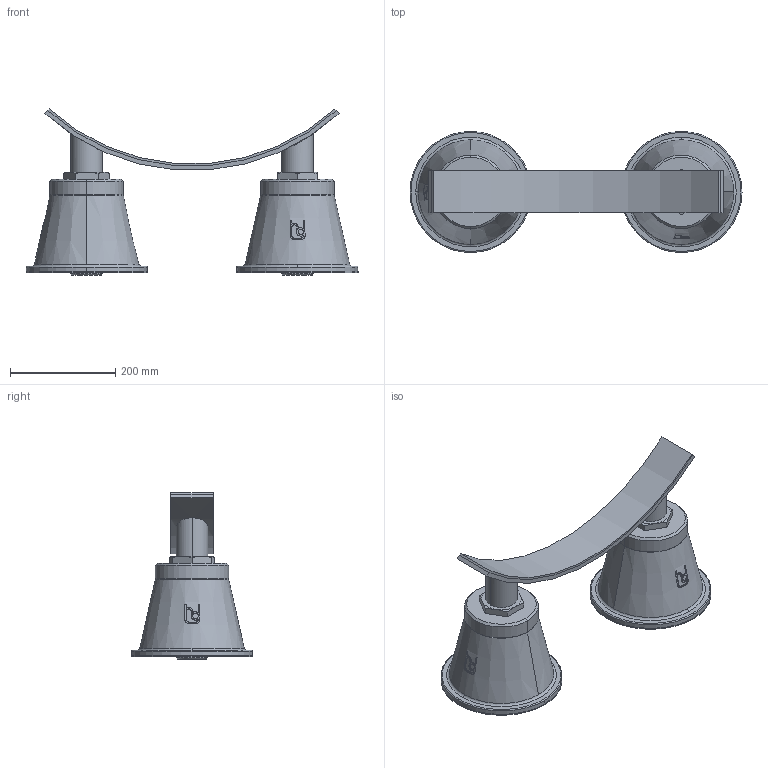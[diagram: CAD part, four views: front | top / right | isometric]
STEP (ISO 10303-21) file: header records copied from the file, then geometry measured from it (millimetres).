
FILE_DESCRIPTION(('STEP AP214'),'1');
FILE_NAME('RSRFN-DUO_DN800.stp','2018-06-29T13:33:30',(' '),(' '),'Spatial InterOp 3D',' ',' ');
FILE_SCHEMA(('automotive_design'));
Length unit declared in the file: millimetre
Products named in the file (10): 1; 2; 3; 4; 5; 6; 7; 8; 9; 10
Bounding box: 630 x 230 x 315.03 mm (x, y, z)
Volume: 10151570.7 mm3; surface area: 870646.5 mm2
Topology: 10 solids, 10 shells, 198 faces, 482 edges, 314 vertices
Faces by surface type: plane 80, cylinder 76, cone 34, torus 8
Entity records: 8613 total; most frequent: CARTESIAN_POINT 2180, DIRECTION 986, ORIENTED_EDGE 964, EDGE_CURVE 482, AXIS2_PLACEMENT_3D 384, VERTEX_POINT 314, LINE 218, VECTOR 218
